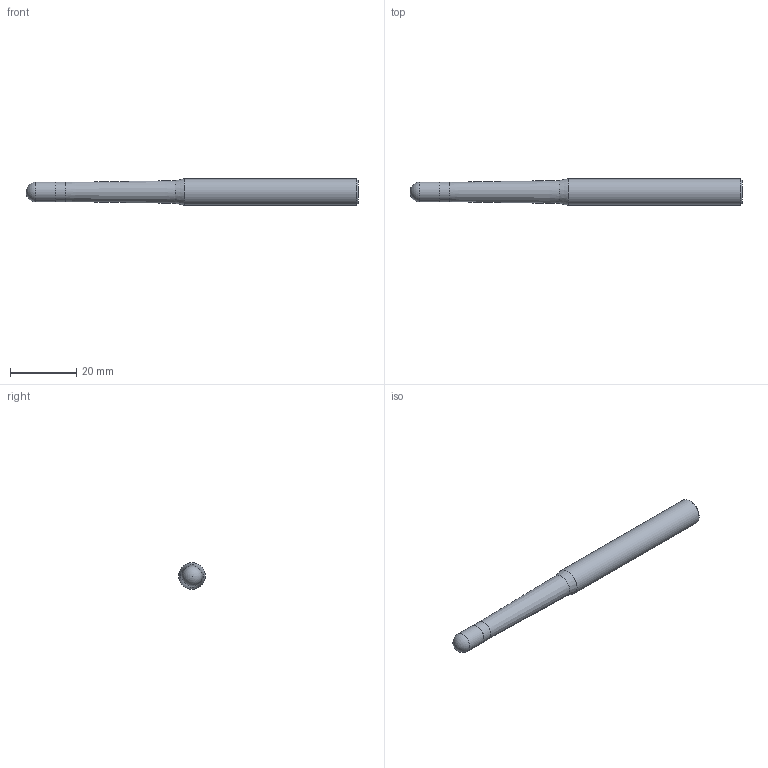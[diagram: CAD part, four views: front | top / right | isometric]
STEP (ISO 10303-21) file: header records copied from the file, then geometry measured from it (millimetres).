
FILE_DESCRIPTION(/* description */ (''),/* implementation_level */ '2;1');
FILE_NAME(/* name */ 'HGXPB2060-45-T0.9 08100.stp',/* time_stamp */ '2026-01-23T16:11:43+08:00',/* author */ (''),/* organization */ (''),/* preprocessor_version */ 'ST-DEVELOPER v16',/* originating_system */ 'SIEMENS PLM Software NX 10.0',/* authorisation */ '');
FILE_SCHEMA (('CONFIG_CONTROL_DESIGN'));
Length unit declared in the file: millimetre
Products named in the file (1): HGXPB2060-45-T0.9 08100_dxf
Bounding box: 100 x 8 x 8 mm (x, y, z)
Volume: 4105.5 mm3; surface area: 2309.7 mm2
Topology: 1 solids, 1 shells, 9 faces, 16 edges, 9 vertices
Faces by surface type: cylinder 3, cone 3, plane 2, sphere 1
Full cylindrical faces by diameter (mm): 5.85 x1, 6 x1, 8 x1
Entity records: 258 total; most frequent: DIRECTION 36, CARTESIAN_POINT 26, AXIS2_PLACEMENT_3D 18, EDGE_LOOP 16, ORIENTED_EDGE 16, FACE_BOUND 14, ADVANCED_FACE 9, VERTEX_POINT 8
